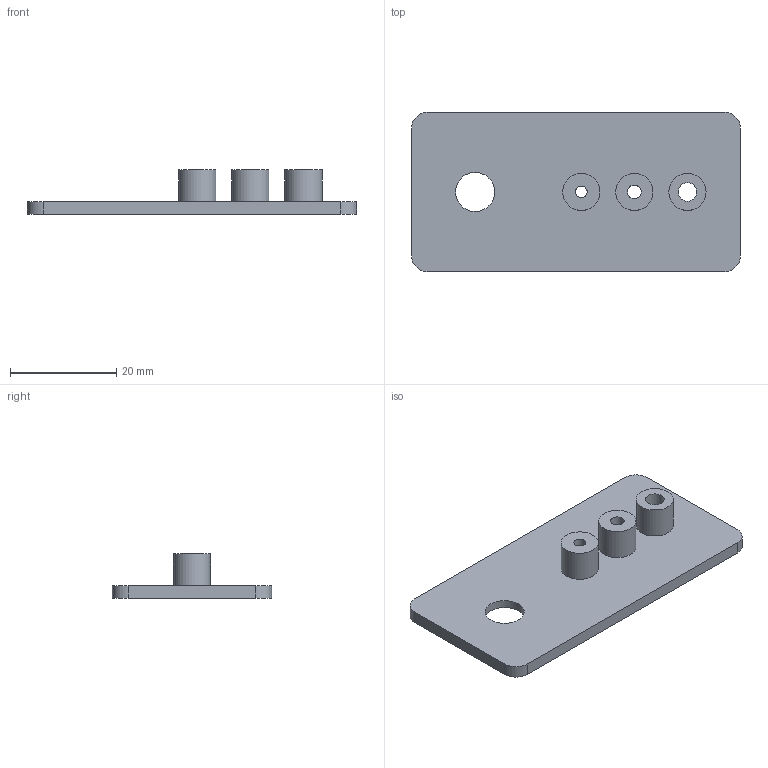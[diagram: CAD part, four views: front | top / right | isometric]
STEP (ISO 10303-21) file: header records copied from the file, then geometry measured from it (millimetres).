
FILE_DESCRIPTION(('Open CASCADE Model'),'2;1');
FILE_NAME('Open CASCADE Shape Model','2026-10-01T00:49:01',('Author'),( 'Open CASCADE'),'Open CASCADE STEP processor 7.9','Open CASCADE 7.9' ,'Unknown');
FILE_SCHEMA(('AUTOMOTIVE_DESIGN { 1 0 10303 214 1 1 1 1 }'));
Length unit declared in the file: millimetre
Products named in the file (1): Open CASCADE STEP translator 7.9 5
Bounding box: 62 x 30 x 8.4 mm (x, y, z)
Volume: 4660.7 mm3; surface area: 4712.6 mm2
Topology: 1 solids, 1 shells, 22 faces, 48 edges, 32 vertices
Faces by surface type: cylinder 12, plane 10
Full cylindrical faces by diameter (mm): 2.2 x1, 2.6 x1, 3.5 x1, 7 x3, 7.4 x1, 20 x1
Entity records: 1314 total; most frequent: CARTESIAN_POINT 295, DIRECTION 198, ORIENTED_EDGE 96, LINE 96, VECTOR 96, PCURVE 96, DEFINITIONAL_REPRESENTATION 96, EDGE_CURVE 48
